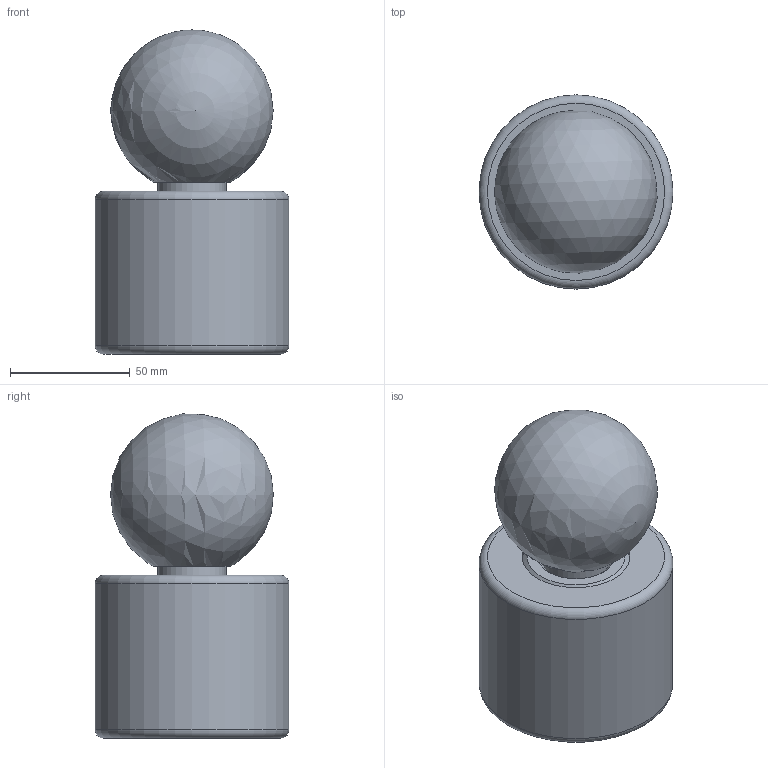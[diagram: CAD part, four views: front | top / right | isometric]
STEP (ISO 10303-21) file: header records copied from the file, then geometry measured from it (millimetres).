
FILE_DESCRIPTION(/* description */ (''),/* implementation_level */ '2;1');
FILE_NAME(/* name */ 'C:\Users\Dominika\Desktop\Modele CZARNY\T25\KINKIET T25.stp',/* time_stamp */ '2019-12-05T20:18:15+01:00',/* author */ ('Dominika'),/* organization */ (''),/* preprocessor_version */ 'ST-DEVELOPER v17',/* originating_system */ 'Autodesk Inventor 2019',/* authorisation */ '');
FILE_SCHEMA (('AUTOMOTIVE_DESIGN { 1 0 10303 214 3 1 1 }'));
Length unit declared in the file: millimetre
Products named in the file (4): KINKIET T25; T25 mocowanie do sciany; T25 gwint; klosz II
Assembly tree (3 placements, depth 2):
  KINKIET T25
    T25 mocowanie do sciany
    T25 gwint
    klosz II
Bounding box: 81 x 81 x 135.37 mm (x, y, z)
Volume: 512211 mm3; surface area: 56795.5 mm2
Topology: 3 solids, 3 shells, 17 faces, 29 edges, 19 vertices
Faces by surface type: plane 7, cylinder 5, torus 2, cone 2, sphere 1
Full cylindrical faces by diameter (mm): 28 x1, 28.487 x1, 45 x2, 81 x1
Entity records: 564 total; most frequent: DIRECTION 95, CARTESIAN_POINT 70, ORIENTED_EDGE 54, AXIS2_PLACEMENT_3D 44, EDGE_CURVE 27, EDGE_LOOP 22, CIRCLE 20, VERTEX_POINT 19
